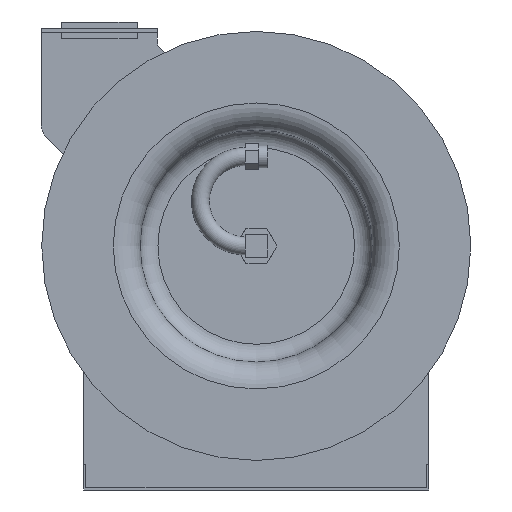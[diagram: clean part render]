
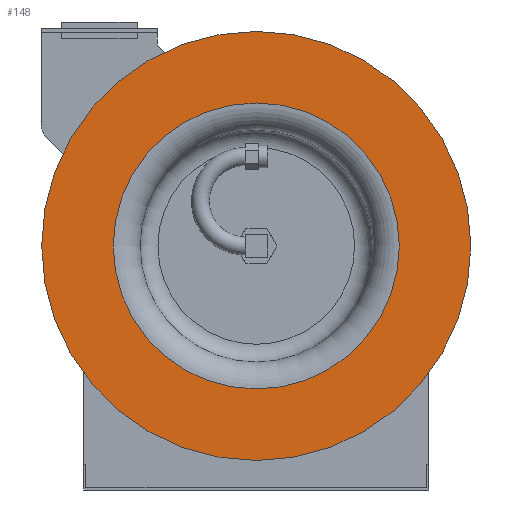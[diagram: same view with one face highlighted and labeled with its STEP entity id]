
A CAD part, left-side view. The second image highlights one B-rep face of the part: STEP entity #148.
In plain terms, the highlighted planar face has unit normal (-1, 0, 0).
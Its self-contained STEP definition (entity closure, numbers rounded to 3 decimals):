
#148 = ADVANCED_FACE( '', ( #401, #402 ), #403, .T. );
#401 = FACE_OUTER_BOUND( '', #806, .T. );
#402 = FACE_BOUND( '', #807, .T. );
#403 = PLANE( '', #808 );
#806 = EDGE_LOOP( '', ( #1227 ) );
#807 = EDGE_LOOP( '', ( #1228 ) );
#808 = AXIS2_PLACEMENT_3D( '', #1229, #1230, #1231 );
#1227 = ORIENTED_EDGE( '', *, *, #2173, .T. );
#1228 = ORIENTED_EDGE( '', *, *, #2174, .F. );
#1229 = CARTESIAN_POINT( '', ( -132.258, 0., 101.6 ) );
#1230 = DIRECTION( '', ( -1., 0., 0. ) );
#1231 = DIRECTION( '', ( 0., 0., 1. ) );
#2173 = EDGE_CURVE( '', #2554, #2554, #2555, .T. );
#2174 = EDGE_CURVE( '', #2556, #2556, #2557, .T. );
#2554 = VERTEX_POINT( '', #3105 );
#2555 = CIRCLE( '', #3106, 152.4 );
#2556 = VERTEX_POINT( '', #3107 );
#2557 = CIRCLE( '', #3108, 101.6 );
#3105 = CARTESIAN_POINT( '', ( -132.258, 0., 152.4 ) );
#3106 = AXIS2_PLACEMENT_3D( '', #3843, #3844, #3845 );
#3107 = CARTESIAN_POINT( '', ( -132.258, 0., 101.6 ) );
#3108 = AXIS2_PLACEMENT_3D( '', #3846, #3847, #3848 );
#3843 = CARTESIAN_POINT( '', ( -132.258, 0., 0. ) );
#3844 = DIRECTION( '', ( -1., 0., 0. ) );
#3845 = DIRECTION( '', ( 0., 0., 1. ) );
#3846 = CARTESIAN_POINT( '', ( -132.258, 0., 0. ) );
#3847 = DIRECTION( '', ( -1., 0., 0. ) );
#3848 = DIRECTION( '', ( 0., 0., 1. ) );
